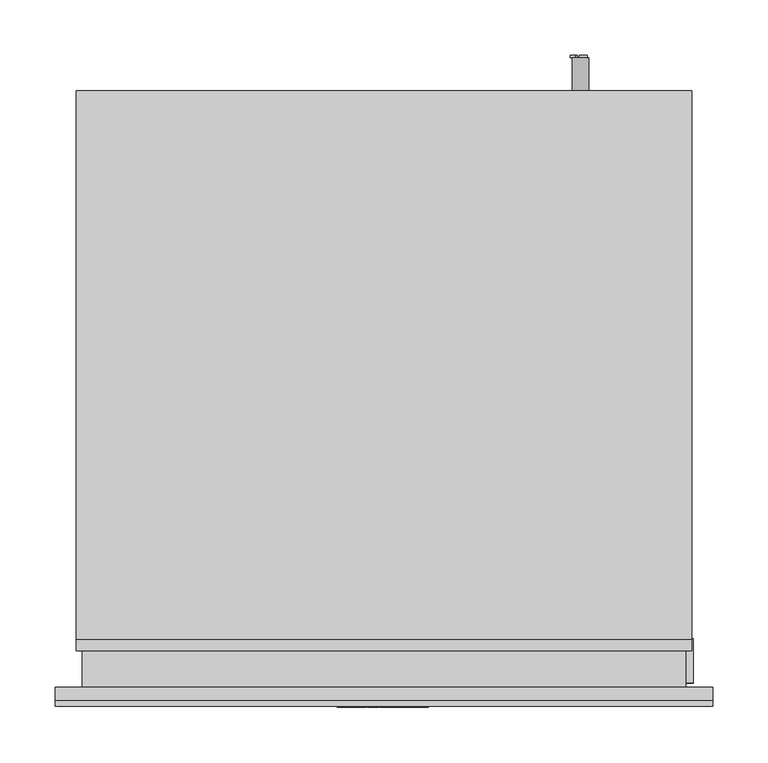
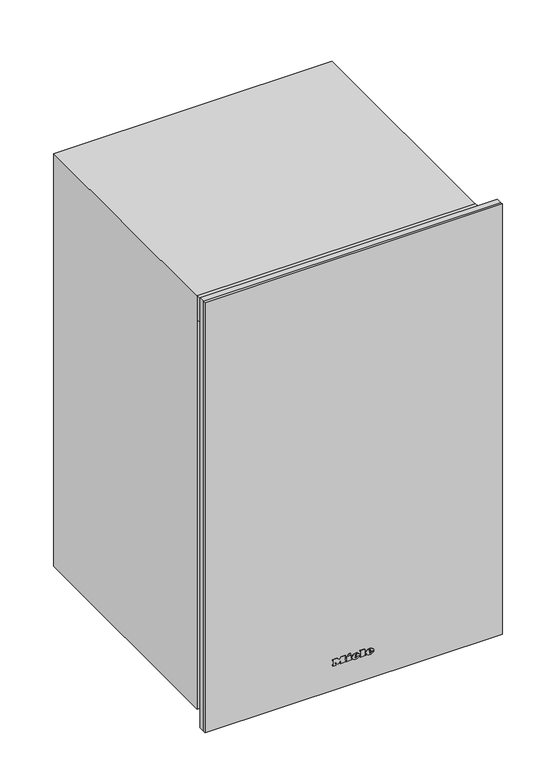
"""IFC4 building model written with IfcOpenShell, lengths in millimetres: proxy geometry, 10845470_OER_KWT6422iG_OBSW : 36642220_OER_10845470_KWT6422iG_OBSW."""

from ifc_helpers import new_model, si_unit, point, frame, frame_2d, origin, place, context, project, spatial, polyline, circle_curve, ellipse_curve, trimmed, segment, composite_curve, outline, extrude, faceted_brep, source, transform, mapped, element, save
from ifc_brep_helpers import plane_surface, cylinder_surface, revolved_surface, extruded_surface, advanced_brep


def specialty_equipment_af5a11c1(model_context):
    return source(origin(), model_context, "Body", "SolidModel", [
        advanced_brep(
        [(30.9909978, -1.0, 76.4302587), (30.9909978, -1.0, 77.7937587), (40.0224978, -1.0, 77.7937587), (24.3084978, -1.0, 77.7937587), (28.0209978, -1.0, 73.2307587), (39.7929978, -1.0, 76.4302587), (35.7159978, -1.0, 76.4302587), (32.5029978, -1.0, 74.9182587), (30.9909978, -1.0, 79.5217587), (30.9909978, -1.0, 80.9932587), (33.2994978, -1.0, 80.9932587), (33.2994978, -1.0, 79.5217587), (30.9909978, 0.0, 76.4302587), (32.5029978, 0.0, 74.9182587), (35.7159978, 0.0, 76.4302587), (39.7929978, 0.0, 76.4302587), (28.0209978, 0.0, 73.2307587), (24.3084978, 0.0, 77.7937587), (40.0224978, 0.0, 77.7937587), (30.9909978, 0.0, 77.7937587), (30.9909978, 0.0, 79.5217587), (33.2994978, 0.0, 79.5217587), (33.2994978, 0.0, 80.9932587), (30.9909978, 0.0, 80.9932587)],
        [
            (0, 1),
            (1, 2),
            (2, 3, ellipse_curve(frame((32.1654978, -1.0, 77.7937587), z_axis=(0.0, -1.0, 0.0), x_axis=(-1.0, 0.0, 0.0)), 7.857, 6.4935)),
            (3, 4, circle_curve(frame((29.5330714, -1.0, 78.2527587), z_axis=(0.0, -1.0, 0.0), x_axis=(0.0, 0.0, -1.0)), 5.2446974)),
            (4, 5, circle_curve(frame((32.008212, -1.0, 81.8167587), z_axis=(0.0, -1.0, 0.0), x_axis=(0.0, 0.0, -1.0)), 9.46664)),
            (5, 6),
            (6, 7, circle_curve(frame((33.1629096, -1.0, 77.6857587), z_axis=(0.0, 1.0, 0.0), x_axis=(0.0, 0.0, -1.0)), 2.8450905)),
            (7, 0, circle_curve(frame((32.5029978, -1.0, 76.4302587), z_axis=(0.0, 1.0, 0.0), x_axis=(0.0, 0.0, -1.0)), 1.512)),
            (8, 9),
            (9, 10, circle_curve(frame((32.1452478, -1.0, 80.9932587), z_axis=(0.0, 1.0, 0.0), x_axis=(0.0, 0.0, -1.0)), 1.15425)),
            (10, 11),
            (11, 8),
            (12, 13, circle_curve(frame((32.5029978, 0.0, 76.4302587), z_axis=(0.0, -1.0, 0.0), x_axis=(0.0, 0.0, -1.0)), 1.512)),
            (13, 14, circle_curve(frame((33.1629096, 0.0, 77.6857587), z_axis=(0.0, -1.0, 0.0), x_axis=(0.0, 0.0, -1.0)), 2.8450905)),
            (14, 15),
            (15, 16, circle_curve(frame((32.008212, 0.0, 81.8167587), z_axis=(0.0, 1.0, 0.0), x_axis=(0.0, 0.0, -1.0)), 9.46664)),
            (16, 17, circle_curve(frame((29.5330714, 0.0, 78.2527587), z_axis=(0.0, 1.0, 0.0), x_axis=(0.0, 0.0, -1.0)), 5.2446974)),
            (17, 18, ellipse_curve(frame((32.1654978, 0.0, 77.7937587), z_axis=(0.0, 1.0, 0.0), x_axis=(-1.0, 0.0, 0.0)), 7.857, 6.4935)),
            (18, 19),
            (19, 12),
            (20, 21),
            (21, 22),
            (22, 23, circle_curve(frame((32.1452478, 0.0, 80.9932587), z_axis=(0.0, -1.0, 0.0), x_axis=(0.0, 0.0, -1.0)), 1.15425)),
            (23, 20),
            (0, 12),
            (19, 1),
            (18, 2),
            (5, 15),
            (14, 6),
            (17, 3),
            (13, 7),
            (16, 4),
            (8, 20),
            (23, 9),
            (22, 10),
            (21, 11),
        ],
        [
            plane_surface(frame((30.9909978, -1.0, 77.7937587), z_axis=(0.0, -1.0, 0.0), x_axis=(0.0, 0.0, 1.0))),
            plane_surface(frame((30.9909978, 0.0, 77.7937587), z_axis=(0.0, 1.0, 0.0), x_axis=(0.0, 0.0, -1.0))),
            plane_surface(frame((30.9909978, -1.0, 76.4302587), z_axis=(1.0, 0.0, 0.0), x_axis=(0.0, 1.0, 0.0))),
            plane_surface(frame((30.9909978, -1.0, 77.7937587), z_axis=(0.0, 0.0, -1.0), x_axis=(0.0, 1.0, 0.0))),
            plane_surface(frame((39.7929978, -1.0, 76.4302587), z_axis=(0.0, 0.0, 1.0), x_axis=(0.0, 1.0, 0.0))),
            extruded_surface(trimmed(ellipse_curve(frame((32.1654978, 1.0, 77.7937587), z_axis=(0.0, -1.0, 0.0), x_axis=(-1.0, 0.0, 0.0)), 7.857, 6.4935), [point((40.0224978, 1.0, 77.7937587))], [point((24.3084978, 1.0, 77.7937587))], True, "CARTESIAN"), (0.0, -1.0, 0.0), 1.0),
            revolved_surface(polyline([(33.1629096, 0.0, 74.8406682), (33.1629096, -1.0, 74.8406682)]), (33.1629096, 0.0, 77.6857587), (0.0, 1.0, 0.0)),
            revolved_surface(polyline([(32.5029978, 0.0, 74.9182587), (32.5029978, -1.0, 74.9182587)]), (32.5029978, 0.0, 76.4302587), (0.0, 1.0, 0.0)),
            cylinder_surface(frame((29.5330714, 0.0, 78.2527587), z_axis=(0.0, -1.0, 0.0), x_axis=(0.0, 0.0, -1.0)), 5.2446974),
            cylinder_surface(frame((32.008212, 0.0, 81.8167587), z_axis=(0.0, -1.0, 0.0), x_axis=(0.0, 0.0, -1.0)), 9.46664),
            plane_surface(frame((30.9909978, -1.0, 79.5217587), z_axis=(1.0, 0.0, 0.0), x_axis=(0.0, 1.0, 0.0))),
            revolved_surface(polyline([(32.1452478, 0.0, 79.8390087), (32.1452478, -1.0, 79.8390087)]), (32.1452478, 0.0, 80.9932587), (0.0, 1.0, 0.0)),
            plane_surface(frame((33.2994978, -1.0, 80.9932587), z_axis=(-1.0, 0.0, 0.0), x_axis=(0.0, 1.0, 0.0))),
            plane_surface(frame((33.2994978, -1.0, 79.5217587), z_axis=(0.0, 0.0, 1.0), x_axis=(0.0, 1.0, 0.0))),
        ],
        [
            (0, [[1, 2, 3, 4, 5, 6, 7, 8], [9, 10, 11, 12]]),
            (1, [[13, 14, 15, 16, 17, 18, 19, 20], [21, 22, 23, 24]]),
            (2, [[-1, 25, -20, 26]]),
            (3, [[-2, -26, -19, 27]]),
            (4, [[-6, 28, -15, 29]]),
            (5, [[-3, -27, -18, 30]]),
            (6, [[-7, -29, -14, 31]]),
            (7, [[-8, -31, -13, -25]]),
            (8, [[-4, -30, -17, 32]]),
            (9, [[-5, -32, -16, -28]]),
            (10, [[-9, 33, -24, 34]]),
            (11, [[-10, -34, -23, 35]]),
            (12, [[-11, -35, -22, 36]]),
            (13, [[-12, -36, -21, -33]]),
        ],
    ),
        advanced_brep(
        [(2.8164978, -1.0, 76.4302587), (2.8164978, -1.0, 77.7937587), (11.8479978, -1.0, 77.7937587), (-3.8660022, -1.0, 77.7937587), (-0.1535022, -1.0, 73.2307587), (11.6184978, -1.0, 76.4302587), (7.5414978, -1.0, 76.4302587), (4.3284978, -1.0, 74.9182587), (2.8164978, -1.0, 79.5217587), (2.8164978, -1.0, 80.9932587), (5.1249978, -1.0, 80.9932587), (5.1249978, -1.0, 79.5217587), (2.8164978, 0.0, 76.4302587), (4.3284978, 0.0, 74.9182587), (7.5414978, 0.0, 76.4302587), (11.6184978, 0.0, 76.4302587), (-0.1535022, 0.0, 73.2307587), (-3.8660022, 0.0, 77.7937587), (11.8479978, 0.0, 77.7937587), (2.8164978, 0.0, 77.7937587), (2.8164978, 0.0, 79.5217587), (5.1249978, 0.0, 79.5217587), (5.1249978, 0.0, 80.9932587), (2.8164978, 0.0, 80.9932587)],
        [
            (0, 1),
            (1, 2),
            (2, 3, ellipse_curve(frame((3.9909978, -1.0, 77.7937587), z_axis=(0.0, -1.0, 0.0), x_axis=(-1.0, 0.0, 0.0)), 7.857, 6.4935)),
            (3, 4, circle_curve(frame((1.3585714, -1.0, 78.2527587), z_axis=(0.0, -1.0, 0.0), x_axis=(0.0, 0.0, -1.0)), 5.2446974)),
            (4, 5, circle_curve(frame((3.833712, -1.0, 81.8167587), z_axis=(0.0, -1.0, 0.0), x_axis=(0.0, 0.0, -1.0)), 9.46664)),
            (5, 6),
            (6, 7, circle_curve(frame((4.9884096, -1.0, 77.6857587), z_axis=(0.0, 1.0, 0.0), x_axis=(0.0, 0.0, -1.0)), 2.8450905)),
            (7, 0, circle_curve(frame((4.3284978, -1.0, 76.4302587), z_axis=(0.0, 1.0, 0.0), x_axis=(0.0, 0.0, -1.0)), 1.512)),
            (8, 9),
            (9, 10, circle_curve(frame((3.9707478, -1.0, 80.9932587), z_axis=(0.0, 1.0, 0.0), x_axis=(0.0, 0.0, -1.0)), 1.15425)),
            (10, 11),
            (11, 8),
            (12, 13, circle_curve(frame((4.3284978, 0.0, 76.4302587), z_axis=(0.0, -1.0, 0.0), x_axis=(0.0, 0.0, -1.0)), 1.512)),
            (13, 14, circle_curve(frame((4.9884096, 0.0, 77.6857587), z_axis=(0.0, -1.0, 0.0), x_axis=(0.0, 0.0, -1.0)), 2.8450905)),
            (14, 15),
            (15, 16, circle_curve(frame((3.833712, 0.0, 81.8167587), z_axis=(0.0, 1.0, 0.0), x_axis=(0.0, 0.0, -1.0)), 9.46664)),
            (16, 17, circle_curve(frame((1.3585714, 0.0, 78.2527587), z_axis=(0.0, 1.0, 0.0), x_axis=(0.0, 0.0, -1.0)), 5.2446974)),
            (17, 18, ellipse_curve(frame((3.9909978, 0.0, 77.7937587), z_axis=(0.0, 1.0, 0.0), x_axis=(-1.0, 0.0, 0.0)), 7.857, 6.4935)),
            (18, 19),
            (19, 12),
            (20, 21),
            (21, 22),
            (22, 23, circle_curve(frame((3.9707478, 0.0, 80.9932587), z_axis=(0.0, -1.0, 0.0), x_axis=(0.0, 0.0, -1.0)), 1.15425)),
            (23, 20),
            (0, 12),
            (19, 1),
            (18, 2),
            (5, 15),
            (14, 6),
            (17, 3),
            (13, 7),
            (16, 4),
            (8, 20),
            (23, 9),
            (22, 10),
            (21, 11),
        ],
        [
            plane_surface(frame((2.8164978, -1.0, 77.7937587), z_axis=(0.0, -1.0, 0.0), x_axis=(0.0, 0.0, 1.0))),
            plane_surface(frame((2.8164978, 0.0, 77.7937587), z_axis=(0.0, 1.0, 0.0), x_axis=(0.0, 0.0, -1.0))),
            plane_surface(frame((2.8164978, -1.0, 76.4302587), z_axis=(1.0, 0.0, 0.0), x_axis=(0.0, 1.0, 0.0))),
            plane_surface(frame((2.8164978, -1.0, 77.7937587), z_axis=(0.0, 0.0, -1.0), x_axis=(0.0, 1.0, 0.0))),
            plane_surface(frame((11.6184978, -1.0, 76.4302587), z_axis=(0.0, 0.0, 1.0), x_axis=(0.0, 1.0, 0.0))),
            extruded_surface(trimmed(ellipse_curve(frame((3.9909978, 1.0, 77.7937587), z_axis=(0.0, -1.0, 0.0), x_axis=(-1.0, 0.0, 0.0)), 7.857, 6.4935), [point((11.8479978, 1.0, 77.7937587))], [point((-3.8660022, 1.0, 77.7937587))], True, "CARTESIAN"), (0.0, -1.0, 0.0), 1.0),
            revolved_surface(polyline([(4.9884096, 0.0, 74.8406682), (4.9884096, -1.0, 74.8406682)]), (4.9884096, 0.0, 77.6857587), (0.0, 1.0, 0.0)),
            revolved_surface(polyline([(4.3284978, 0.0, 74.9182587), (4.3284978, -1.0, 74.9182587)]), (4.3284978, 0.0, 76.4302587), (0.0, 1.0, 0.0)),
            cylinder_surface(frame((1.3585714, 0.0, 78.2527587), z_axis=(0.0, -1.0, 0.0), x_axis=(0.0, 0.0, -1.0)), 5.2446974),
            cylinder_surface(frame((3.833712, 0.0, 81.8167587), z_axis=(0.0, -1.0, 0.0), x_axis=(0.0, 0.0, -1.0)), 9.46664),
            plane_surface(frame((2.8164978, -1.0, 79.5217587), z_axis=(1.0, 0.0, 0.0), x_axis=(0.0, 1.0, 0.0))),
            revolved_surface(polyline([(3.9707478, 0.0, 79.8390087), (3.9707478, -1.0, 79.8390087)]), (3.9707478, 0.0, 80.9932587), (0.0, 1.0, 0.0)),
            plane_surface(frame((5.1249978, -1.0, 80.9932587), z_axis=(-1.0, 0.0, 0.0), x_axis=(0.0, 1.0, 0.0))),
            plane_surface(frame((5.1249978, -1.0, 79.5217587), z_axis=(0.0, 0.0, 1.0), x_axis=(0.0, 1.0, 0.0))),
        ],
        [
            (0, [[1, 2, 3, 4, 5, 6, 7, 8], [9, 10, 11, 12]]),
            (1, [[13, 14, 15, 16, 17, 18, 19, 20], [21, 22, 23, 24]]),
            (2, [[-1, 25, -20, 26]]),
            (3, [[-2, -26, -19, 27]]),
            (4, [[-6, 28, -15, 29]]),
            (5, [[-3, -27, -18, 30]]),
            (6, [[-7, -29, -14, 31]]),
            (7, [[-8, -31, -13, -25]]),
            (8, [[-4, -30, -17, 32]]),
            (9, [[-5, -32, -16, -28]]),
            (10, [[-9, 33, -24, 34]]),
            (11, [[-10, -34, -23, 35]]),
            (12, [[-11, -35, -22, 36]]),
            (13, [[-12, -36, -21, -33]]),
        ],
    ),
        extrude(outline(polyline([(85.9342587, -11.9390022), (83.7472587, -10.9130022), (85.8802587, -6.3365022), (88.0672587, -7.3490022), (85.9342587, -11.9390022)])), frame((0.0, -1.0, 0.0), z_axis=(0.0, 1.0, 0.0), x_axis=(0.0, 0.0, 1.0)), (0.0, 0.0, 1.0), 1.0),
        extrude(outline(polyline([(83.4502587, -15.2735022), (81.0337587, -15.2735022), (81.0337587, -13.6670022), (75.4987587, -13.6670022), (75.4987587, -15.2735022), (73.2307587, -15.2735022), (73.2307587, -4.6220022), (75.4987587, -4.6220022), (75.4987587, -6.1880022), (83.4502587, -6.1880022), (83.4502587, -15.2735022)])), frame((0.0, -1.0, 0.0), z_axis=(0.0, 1.0, 0.0), x_axis=(0.0, 0.0, 1.0)), (0.0, 0.0, 1.0), 1.0),
        extrude(outline(polyline([(84.5302587, 12.6039978), (84.5302587, 14.2239978), (75.4987587, 14.2239978), (75.4987587, 12.6039978), (73.2307587, 12.6039978), (73.2307587, 23.5524978), (75.4987587, 23.5524978), (75.4987587, 21.8919978), (86.7307587, 21.8919978), (86.7307587, 12.6039978), (84.5302587, 12.6039978)])), frame((0.0, -1.0, 0.0), z_axis=(0.0, 1.0, 0.0), x_axis=(0.0, 0.0, 1.0)), (0.0, 0.0, 1.0), 1.0),
        extrude(outline(polyline([(84.5302587, -42.1790022), (84.5302587, -40.5455022), (75.4987587, -40.5455022), (75.4987587, -42.1790022), (73.2307587, -42.1790022), (73.2307587, -36.2390022), (75.4987587, -36.2390022), (75.4987587, -37.8590022), (81.2063835, -37.8590022), (73.2307587, -31.8245022), (81.483481, -25.7630022), (75.4987587, -25.7630022), (75.4987587, -27.4235022), (73.2307587, -27.4235022), (73.2307587, -16.6505022), (75.4987587, -16.6505022), (75.4987587, -18.3650022), (84.5302587, -18.3650022), (84.5302587, -16.6505022), (86.7307587, -16.6505022), (86.7307587, -24.8720022), (81.6682587, -28.8140022), (86.7307587, -32.7695022), (86.7307587, -42.1790022), (84.5302587, -42.1790022)])), frame((0.0, -1.0, 0.0), z_axis=(0.0, 1.0, 0.0), x_axis=(0.0, 0.0, 1.0)), (0.0, 0.0, 1.0), 1.0),
        extrude(outline(polyline([(0.0, -5.0), (0.0, 0.0), (342.0, 0.0), (342.0, -5.0), (0.0, -5.0)])), frame((171.0, 69.1703709, 519.5998367), z_axis=(0.0, 0.2588190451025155, 0.9659258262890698), x_axis=(-1.0, 0.0, 0.0)), (0.0, 0.0, 1.0), 48.0),
        extrude(outline(composite_curve([segment(trimmed(circle_curve(frame_2d((80.3057414, 178.0)), 7.5), [point((80.3057414, 185.5))], [point((80.3057414, 170.5))], False, "CARTESIAN"), True, "CONTINUOUS"), segment(trimmed(circle_curve(frame_2d((80.3057414, 178.0)), 7.5), [point((80.3057414, 170.5))], [point((80.3057414, 185.5))], False, "CARTESIAN"), True, "CONTINUOUS")], self_intersect=False)), frame((0.0, 557.0, 0.0), z_axis=(0.0, 1.0, 0.0), x_axis=(0.0, 0.0, 1.0)), (0.0, 0.0, 1.0), 30.0),
        faceted_brep([(278.5, 557.0, 900.3057414), (-278.5, 557.0, 900.3057414), (-278.5, 60.0, 900.3057414), (278.5, 60.0, 900.3057414), (278.5, 557.0, 28.3057414), (278.5, 60.0, 28.3057414), (-278.5, 60.0, 28.3057414), (-278.5, 557.0, 28.3057414), (-232.5, 60.0, 810.3057414), (232.5, 60.0, 810.3057414), (232.5, 60.0, 108.3057414), (-232.5, 60.0, 108.3057414), (232.5, 460.0, 810.3057414), (-232.5, 460.0, 810.3057414), (-232.5, 460.0, 108.3057414), (232.5, 460.0, 108.3057414)], [[[0, 1, 2, 3]], [[4, 5, 6, 7]], [[1, 0, 4, 7]], [[2, 1, 7, 6]], [[3, 2, 6, 5], [8, 9, 10, 11]], [[0, 3, 5, 4]], [[12, 13, 14, 15]], [[13, 12, 9, 8]], [[14, 13, 8, 11]], [[15, 14, 11, 10]], [[12, 15, 10, 9]]]),
        extrude(outline(polyline([(232.5, 339.0), (-232.5, 339.0), (-232.5, 460.0), (232.5, 460.0), (232.5, 339.0)])), frame((0.0, 0.0, 108.3057414), z_axis=(0.0, 0.0, 1.0), x_axis=(1.0, 0.0, 0.0)), (0.0, 0.0, 1.0), 205.0),
        extrude(outline(polyline([(232.5, 460.0), (232.5, 400.0), (-232.5, 400.0), (-232.5, 460.0), (232.5, 460.0)])), frame((0.0, 0.0, 383.2576931), z_axis=(0.0, 0.0, 1.0), x_axis=(1.0, 0.0, 0.0)), (0.0, 0.0, 1.0), 119.0480483),
        extrude(outline(polyline([(400.0, 662.3057414), (400.0, 780.3057414), (60.0, 780.3057414), (60.0, 810.3057414), (460.0, 810.3057414), (460.0, 662.3057414), (400.0, 662.3057414)])), frame((-232.5, 0.0, 0.0), z_axis=(1.0, 0.0, 0.0), x_axis=(0.0, 1.0, 0.0)), (0.0, 0.0, 1.0), 465.0),
        extrude(outline(polyline([(75.567636, 184.0941573), (85.613267, 184.0941573), (85.613267, 176.87386), (84.3575631, 176.87386), (84.3575631, 182.8384535), (81.3752664, 182.8384535), (81.3752664, 177.187786), (80.1195625, 177.187786), (80.1195625, 182.8384535), (76.8233398, 182.8384535), (76.8233398, 176.7168971), (75.567636, 176.7168971), (75.567636, 184.0941573)])), frame((0.0, 587.0, 0.0), z_axis=(0.0, 1.0, 0.0), x_axis=(0.0, 0.0, 1.0)), (0.0, 0.0, 1.0), 2.0),
        extrude(outline(polyline([(75.567636, 174.8333412), (85.613267, 174.8333412), (85.613267, 173.5776374), (76.8233398, 173.5776374), (76.8233398, 168.5548219), (75.567636, 168.5548219), (75.567636, 174.8333412)])), frame((0.0, 587.0, 0.0), z_axis=(0.0, 1.0, 0.0), x_axis=(0.0, 0.0, 1.0)), (0.0, 0.0, 1.0), 2.0),
        extrude(outline(polyline([(-278.5, 60.0), (278.5, 60.0), (278.5, 50.0), (-278.5, 50.0), (-278.5, 60.0)])), frame((0.0, 0.0, 851.3057414), z_axis=(0.0, 0.0, 1.0), x_axis=(1.0, 0.0, 0.0)), (0.0, 0.0, 1.0), 50.0),
        extrude(outline(polyline([(10.0, 67.0438353), (-10.0, 67.0438353), (-10.0, 400.0), (10.0, 400.0), (10.0, 67.0438353)])), frame((0.0, 0.0, 401.3057414), z_axis=(0.0, 0.0, 1.0), x_axis=(1.0, 0.0, 0.0)), (0.0, 0.0, 1.0), 10.0),
        extrude(outline(polyline([(-40.625, 67.0438353), (-60.625, 67.0438353), (-60.625, 400.0), (-40.625, 400.0), (-40.625, 67.0438353)])), frame((0.0, 0.0, 401.3057414), z_axis=(0.0, 0.0, 1.0), x_axis=(1.0, 0.0, 0.0)), (0.0, 0.0, 1.0), 10.0),
        extrude(outline(polyline([(-91.25, 67.0438353), (-111.25, 67.0438353), (-111.25, 400.0), (-91.25, 400.0), (-91.25, 67.0438353)])), frame((0.0, 0.0, 401.3057414), z_axis=(0.0, 0.0, 1.0), x_axis=(1.0, 0.0, 0.0)), (0.0, 0.0, 1.0), 10.0),
        extrude(outline(polyline([(-141.875, 67.0438353), (-161.875, 67.0438353), (-161.875, 400.0), (-141.875, 400.0), (-141.875, 67.0438353)])), frame((0.0, 0.0, 401.3057414), z_axis=(0.0, 0.0, 1.0), x_axis=(1.0, 0.0, 0.0)), (0.0, 0.0, 1.0), 10.0),
        extrude(outline(polyline([(-192.5, 67.0438353), (-212.5, 67.0438353), (-212.5, 400.0), (-192.5, 400.0), (-192.5, 67.0438353)])), frame((0.0, 0.0, 401.3057414), z_axis=(0.0, 0.0, 1.0), x_axis=(1.0, 0.0, 0.0)), (0.0, 0.0, 1.0), 10.0),
        extrude(outline(polyline([(60.625, 67.0438353), (40.625, 67.0438353), (40.625, 400.0), (60.625, 400.0), (60.625, 67.0438353)])), frame((0.0, 0.0, 401.3057414), z_axis=(0.0, 0.0, 1.0), x_axis=(1.0, 0.0, 0.0)), (0.0, 0.0, 1.0), 10.0),
        extrude(outline(polyline([(111.25, 67.0438353), (91.25, 67.0438353), (91.25, 400.0), (111.25, 400.0), (111.25, 67.0438353)])), frame((0.0, 0.0, 401.3057414), z_axis=(0.0, 0.0, 1.0), x_axis=(1.0, 0.0, 0.0)), (0.0, 0.0, 1.0), 10.0),
        extrude(outline(polyline([(161.875, 67.0438353), (141.875, 67.0438353), (141.875, 400.0), (161.875, 400.0), (161.875, 67.0438353)])), frame((0.0, 0.0, 401.3057414), z_axis=(0.0, 0.0, 1.0), x_axis=(1.0, 0.0, 0.0)), (0.0, 0.0, 1.0), 10.0),
        extrude(outline(polyline([(212.5, 67.0438353), (192.5, 67.0438353), (192.5, 400.0), (212.5, 400.0), (212.5, 67.0438353)])), frame((0.0, 0.0, 401.3057414), z_axis=(0.0, 0.0, 1.0), x_axis=(1.0, 0.0, 0.0)), (0.0, 0.0, 1.0), 10.0),
        extrude(outline(polyline([(10.0, 67.0438353), (-10.0, 67.0438353), (-10.0, 400.0), (10.0, 400.0), (10.0, 67.0438353)])), frame((0.0, 0.0, 682.3057414), z_axis=(0.0, 0.0, 1.0), x_axis=(1.0, 0.0, 0.0)), (0.0, 0.0, 1.0), 10.0),
        extrude(outline(polyline([(-40.625, 67.0438353), (-60.625, 67.0438353), (-60.625, 400.0), (-40.625, 400.0), (-40.625, 67.0438353)])), frame((0.0, 0.0, 682.3057414), z_axis=(0.0, 0.0, 1.0), x_axis=(1.0, 0.0, 0.0)), (0.0, 0.0, 1.0), 10.0),
        extrude(outline(polyline([(-91.25, 67.0438353), (-111.25, 67.0438353), (-111.25, 400.0), (-91.25, 400.0), (-91.25, 67.0438353)])), frame((0.0, 0.0, 682.3057414), z_axis=(0.0, 0.0, 1.0), x_axis=(1.0, 0.0, 0.0)), (0.0, 0.0, 1.0), 10.0),
        extrude(outline(polyline([(-141.875, 67.0438353), (-161.875, 67.0438353), (-161.875, 400.0), (-141.875, 400.0), (-141.875, 67.0438353)])), frame((0.0, 0.0, 682.3057414), z_axis=(0.0, 0.0, 1.0), x_axis=(1.0, 0.0, 0.0)), (0.0, 0.0, 1.0), 10.0),
        extrude(outline(polyline([(-192.5, 67.0438353), (-212.5, 67.0438353), (-212.5, 400.0), (-192.5, 400.0), (-192.5, 67.0438353)])), frame((0.0, 0.0, 682.3057414), z_axis=(0.0, 0.0, 1.0), x_axis=(1.0, 0.0, 0.0)), (0.0, 0.0, 1.0), 10.0),
        extrude(outline(polyline([(60.625, 67.0438353), (40.625, 67.0438353), (40.625, 400.0), (60.625, 400.0), (60.625, 67.0438353)])), frame((0.0, 0.0, 682.3057414), z_axis=(0.0, 0.0, 1.0), x_axis=(1.0, 0.0, 0.0)), (0.0, 0.0, 1.0), 10.0),
        extrude(outline(polyline([(111.25, 67.0438353), (91.25, 67.0438353), (91.25, 400.0), (111.25, 400.0), (111.25, 67.0438353)])), frame((0.0, 0.0, 682.3057414), z_axis=(0.0, 0.0, 1.0), x_axis=(1.0, 0.0, 0.0)), (0.0, 0.0, 1.0), 10.0),
        extrude(outline(polyline([(161.875, 67.0438353), (141.875, 67.0438353), (141.875, 400.0), (161.875, 400.0), (161.875, 67.0438353)])), frame((0.0, 0.0, 682.3057414), z_axis=(0.0, 0.0, 1.0), x_axis=(1.0, 0.0, 0.0)), (0.0, 0.0, 1.0), 10.0),
        extrude(outline(polyline([(212.5, 67.0438353), (192.5, 67.0438353), (192.5, 400.0), (212.5, 400.0), (212.5, 67.0438353)])), frame((0.0, 0.0, 682.3057414), z_axis=(0.0, 0.0, 1.0), x_axis=(1.0, 0.0, 0.0)), (0.0, 0.0, 1.0), 10.0),
        extrude(outline(polyline([(10.0, 64.8678355), (-10.0, 64.8678355), (-10.0, 339.0), (10.0, 339.0), (10.0, 64.8678355)])), frame((0.0, 0.0, 125.3057414), z_axis=(0.0, 0.0, 1.0), x_axis=(1.0, 0.0, 0.0)), (0.0, 0.0, 1.0), 10.0),
        extrude(outline(polyline([(-40.625, 64.8678355), (-60.625, 64.8678355), (-60.625, 339.0), (-40.625, 339.0), (-40.625, 64.8678355)])), frame((0.0, 0.0, 125.3057414), z_axis=(0.0, 0.0, 1.0), x_axis=(1.0, 0.0, 0.0)), (0.0, 0.0, 1.0), 10.0),
        extrude(outline(polyline([(-91.25, 64.8678355), (-111.25, 64.8678355), (-111.25, 339.0), (-91.25, 339.0), (-91.25, 64.8678355)])), frame((0.0, 0.0, 125.3057414), z_axis=(0.0, 0.0, 1.0), x_axis=(1.0, 0.0, 0.0)), (0.0, 0.0, 1.0), 10.0),
        extrude(outline(polyline([(-141.875, 64.8678355), (-161.875, 64.8678355), (-161.875, 339.0), (-141.875, 339.0), (-141.875, 64.8678355)])), frame((0.0, 0.0, 125.3057414), z_axis=(0.0, 0.0, 1.0), x_axis=(1.0, 0.0, 0.0)), (0.0, 0.0, 1.0), 10.0),
        extrude(outline(polyline([(-192.5, 64.8678355), (-212.5, 64.8678355), (-212.5, 339.0), (-192.5, 339.0), (-192.5, 64.8678355)])), frame((0.0, 0.0, 125.3057414), z_axis=(0.0, 0.0, 1.0), x_axis=(1.0, 0.0, 0.0)), (0.0, 0.0, 1.0), 10.0),
        extrude(outline(polyline([(60.625, 64.8678355), (40.625, 64.8678355), (40.625, 339.0), (60.625, 339.0), (60.625, 64.8678355)])), frame((0.0, 0.0, 125.3057414), z_axis=(0.0, 0.0, 1.0), x_axis=(1.0, 0.0, 0.0)), (0.0, 0.0, 1.0), 10.0),
        extrude(outline(polyline([(111.25, 64.8678355), (91.25, 64.8678355), (91.25, 339.0), (111.25, 339.0), (111.25, 64.8678355)])), frame((0.0, 0.0, 125.3057414), z_axis=(0.0, 0.0, 1.0), x_axis=(1.0, 0.0, 0.0)), (0.0, 0.0, 1.0), 10.0),
        extrude(outline(polyline([(161.875, 64.8678355), (141.875, 64.8678355), (141.875, 339.0), (161.875, 339.0), (161.875, 64.8678355)])), frame((0.0, 0.0, 125.3057414), z_axis=(0.0, 0.0, 1.0), x_axis=(1.0, 0.0, 0.0)), (0.0, 0.0, 1.0), 10.0),
        extrude(outline(polyline([(212.5, 64.8678355), (192.5, 64.8678355), (192.5, 339.0), (212.5, 339.0), (212.5, 64.8678355)])), frame((0.0, 0.0, 125.3057414), z_axis=(0.0, 0.0, 1.0), x_axis=(1.0, 0.0, 0.0)), (0.0, 0.0, 1.0), 10.0),
        extrude(outline(polyline([(70.0, 505.3057414), (70.0, 515.3057414), (86.0769515, 575.3057414), (460.0, 575.3057414), (460.0, 505.3057414), (70.0, 505.3057414)])), frame((-232.5, 0.0, 0.0), z_axis=(1.0, 0.0, 0.0), x_axis=(0.0, 1.0, 0.0)), (0.0, 0.0, 1.0), 465.0),
        extrude(outline(polyline([(70.0, 700.6838812), (70.0, 674.3057414), (60.0, 674.3057414), (60.0, 677.3057414), (60.8925608, 677.3057414), (60.8925608, 697.0718745), (60.0, 697.0718745), (60.0, 700.6838812), (70.0, 700.6838812)])), frame((-232.5, 0.0, 0.0), z_axis=(1.0, 0.0, 0.0), x_axis=(0.0, 1.0, 0.0)), (0.0, 0.0, 1.0), 465.0),
        extrude(outline(polyline([(70.0, 419.6838812), (70.0, 393.3057414), (60.0, 393.3057414), (60.0, 396.3057414), (60.8925608, 396.3057414), (60.8925608, 416.0718745), (60.0, 416.0718745), (60.0, 419.6838812), (70.0, 419.6838812)])), frame((-232.5, 0.0, 0.0), z_axis=(1.0, 0.0, 0.0), x_axis=(0.0, 1.0, 0.0)), (0.0, 0.0, 1.0), 465.0),
        extrude(outline(polyline([(70.0, 143.6838812), (70.0, 117.3057414), (60.0, 117.3057414), (60.0, 120.3057414), (60.8925608, 120.3057414), (60.8925608, 140.0718745), (60.0, 140.0718745), (60.0, 143.6838812), (70.0, 143.6838812)])), frame((-232.5, 0.0, 0.0), z_axis=(1.0, 0.0, 0.0), x_axis=(0.0, 1.0, 0.0)), (0.0, 0.0, 1.0), 465.0),
        extrude(outline(polyline([(297.5, 0.0), (-297.5, 0.0), (-297.5, 5.0), (297.5, 5.0), (297.5, 0.0)])), frame((0.0, 0.0, 21.3057414), z_axis=(0.0, 0.0, 1.0), x_axis=(1.0, 0.0, 0.0)), (0.0, 0.0, 1.0), 909.0),
        extrude(outline(polyline([(184.0, 61.0), (280.0, 61.0), (280.0, 21.0), (184.0, 21.0), (184.0, 61.0)])), frame((0.0, 0.0, 859.3057414), z_axis=(0.0, 0.0, 1.0), x_axis=(1.0, 0.0, 0.0)), (0.0, 0.0, 1.0), 33.0),
        extrude(outline(polyline([(184.0, 61.0), (280.0, 61.0), (280.0, 21.0), (184.0, 21.0), (184.0, 61.0)])), frame((0.0, 0.0, 36.3057414), z_axis=(0.0, 0.0, 1.0), x_axis=(1.0, 0.0, 0.0)), (0.0, 0.0, 1.0), 33.0),
        extrude(outline(polyline([(-200.0, 61.0), (200.0, 61.0), (200.0, 17.0), (-200.0, 17.0), (-200.0, 61.0)])), frame((0.0, 0.0, 145.3057414), z_axis=(0.0, 0.0, 1.0), x_axis=(1.0, 0.0, 0.0)), (0.0, 0.0, 1.0), 637.0),
        extrude(outline(polyline([(41.3057414, 273.0), (895.3057414, 273.0), (895.3057414, -273.0), (41.3057414, -273.0), (41.3057414, 273.0)]), holes=[polyline([(782.3057414, 200.0), (145.3057414, 200.0), (145.3057414, -200.0), (782.3057414, -200.0), (782.3057414, 200.0)])]), frame((0.0, 17.0, 0.0), z_axis=(0.0, 1.0, 0.0), x_axis=(0.0, 0.0, 1.0)), (0.0, 0.0, 1.0), 44.0),
        extrude(outline(polyline([(-200.0, 17.0), (200.0, 17.0), (200.0, 5.0), (-200.0, 5.0), (-200.0, 17.0)])), frame((0.0, 0.0, 145.3057414), z_axis=(0.0, 0.0, 1.0), x_axis=(1.0, 0.0, 0.0)), (0.0, 0.0, 1.0), 637.0),
        extrude(outline(polyline([(930.3057414, 297.5), (930.3057414, -297.5), (21.3057414, -297.5), (21.3057414, 297.5), (930.3057414, 297.5)]), holes=[polyline([(782.3057414, 200.0), (145.3057414, 200.0), (145.3057414, -200.0), (782.3057414, -200.0), (782.3057414, 200.0)])]), frame((0.0, 5.0, 0.0), z_axis=(0.0, 1.0, 0.0), x_axis=(0.0, 0.0, 1.0)), (0.0, 0.0, 1.0), 12.0),
    ])


if __name__ == "__main__":
    model = new_model("IFC4")
    model_context = context("Model", 3, world=origin())
    ifc_project = project(units=[si_unit("LENGTHUNIT", "METRE", prefix="MILLI")], contexts=[model_context])
    site = spatial("IfcSite", under=ifc_project)
    building = spatial("IfcBuilding", under=site)
    placement = place(None, origin())
    specialty_equipment_shape = specialty_equipment_af5a11c1(model_context)
    element("IfcBuildingElementProxy", 1, Name="10845470_OER_KWT6422iG_OBSW : 36642220_OER_10845470_KWT6422iG_OBSW", ObjectType="10845470_OER_KWT6422iG_OBSW : 36642220_OER_10845470_KWT6422iG_OBSW", at=placement, inside=building, context=model_context, shape_type="MappedRepresentation", body=[
        mapped(specialty_equipment_shape, transform((0.0, 0.0, 0.0), x_axis=(1.0, 0.0, 0.0), y_axis=(0.0, 1.0, 0.0), z_axis=(0.0, 0.0, 1.0))),
    ])
    save(model, "model.ifc")
